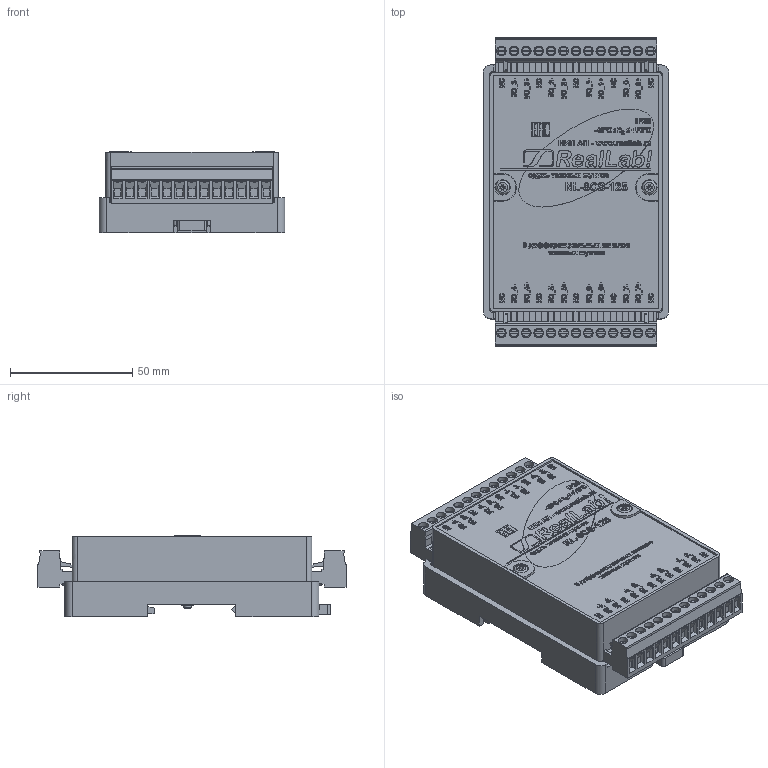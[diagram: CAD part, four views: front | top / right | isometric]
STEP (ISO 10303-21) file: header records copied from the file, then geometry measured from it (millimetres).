
FILE_DESCRIPTION(('STEP AP214'), '1');
FILE_NAME('沓劌錪', '', ('UNSPECIFIED'), ('UNSPECIFIED'), 'C3D Converter', 'C3D Toolkit', '');
FILE_SCHEMA(('AUTOMOTIVE_DESIGN { 1 0 10303 214 3 1 1}'));
Length unit declared in the file: millimetre
Bounding box: 75.8 x 126 x 33.5 mm (x, y, z)
Volume: 85394.4 mm3; surface area: 90250.9 mm2
Topology: 2 solids, 2 shells, 5346 faces, 14364 edges, 9467 vertices
Faces by surface type: plane 2851, extrusion 1829, cylinder 480, torus 118, cone 68
Full cylindrical faces by diameter (mm): 1.4 x26, 2.5 x4, 3 x30, 3.38 x2, 3.6 x4, 3.95 x26, 4 x2, 5.6 x2, 6.3 x2, 6.4 x2, 8 x2
Entity records: 233405 total; most frequent: CARTESIAN_POINT 64569, ORIENTED_EDGE 28360, DIRECTION 19989, EDGE_CURVE 14180, VECTOR 10621, VERTEX_POINT 9465, LINE 8792, EDGE_LOOP 6023
